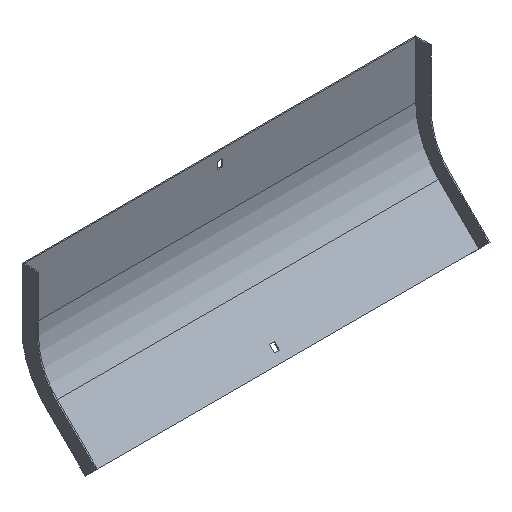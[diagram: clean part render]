
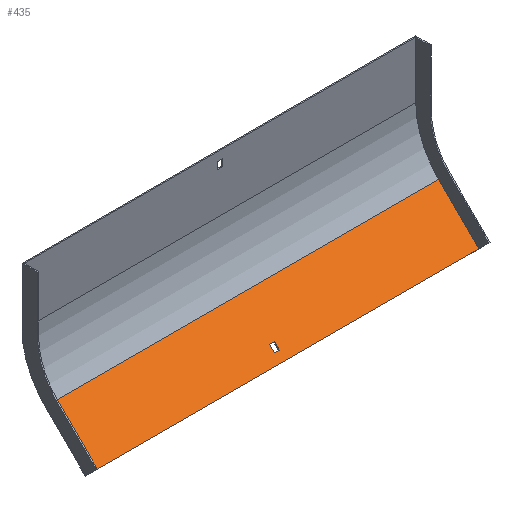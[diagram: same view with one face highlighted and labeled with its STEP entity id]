
A CAD part, isometric view. The second image highlights one B-rep face of the part: STEP entity #435.
In plain terms, the highlighted planar face has unit normal (0, -0.707, 0.707).
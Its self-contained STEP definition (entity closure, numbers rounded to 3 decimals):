
#7 = VECTOR ( 'NONE', #461, 1000. ) ;
#13 = LINE ( 'NONE', #789, #7 ) ;
#34 = ORIENTED_EDGE ( 'NONE', *, *, #223, .T. ) ;
#41 = CARTESIAN_POINT ( 'NONE',  ( 253.5, -68.337, -181.358 ) ) ;
#64 = DIRECTION ( 'NONE',  ( 0., -0.707, -0.707 ) ) ;
#79 = EDGE_CURVE ( 'NONE', #144, #622, #120, .T. ) ;
#82 = CARTESIAN_POINT ( 'NONE',  ( 252., -30.789, -143.811 ) ) ;
#84 = AXIS2_PLACEMENT_3D ( 'NONE', #194, #322, #64 ) ;
#110 = CARTESIAN_POINT ( 'NONE',  ( 3.25, -30.789, -143.811 ) ) ;
#120 = LINE ( 'NONE', #650, #312 ) ;
#124 = CARTESIAN_POINT ( 'NONE',  ( -252., -30.789, -143.811 ) ) ;
#128 = VERTEX_POINT ( 'NONE', #452 ) ;
#134 = ORIENTED_EDGE ( 'NONE', *, *, #169, .T. ) ;
#140 = VERTEX_POINT ( 'NONE', #705 ) ;
#144 = VERTEX_POINT ( 'NONE', #311 ) ;
#154 = EDGE_CURVE ( 'NONE', #552, #490, #318, .T. ) ;
#169 = EDGE_CURVE ( 'NONE', #571, #552, #296, .T. ) ;
#193 = CARTESIAN_POINT ( 'NONE',  ( -3.25, -30.789, -143.811 ) ) ;
#194 = CARTESIAN_POINT ( 'NONE',  ( 253.5, -30.789, -143.811 ) ) ;
#223 = EDGE_CURVE ( 'NONE', #128, #571, #13, .T. ) ;
#237 = ORIENTED_EDGE ( 'NONE', *, *, #862, .T. ) ;
#240 = EDGE_LOOP ( 'NONE', ( #34, #134, #295, #237 ) ) ;
#246 = DIRECTION ( 'NONE',  ( -1., 0., 0. ) ) ;
#248 = LINE ( 'NONE', #110, #428 ) ;
#251 = CARTESIAN_POINT ( 'NONE',  ( 253.5, -82.479, -195.5 ) ) ;
#275 = EDGE_CURVE ( 'NONE', #140, #144, #562, .T. ) ;
#278 = VECTOR ( 'NONE', #590, 1000. ) ;
#295 = ORIENTED_EDGE ( 'NONE', *, *, #154, .T. ) ;
#296 = LINE ( 'NONE', #193, #770 ) ;
#305 = ORIENTED_EDGE ( 'NONE', *, *, #275, .T. ) ;
#307 = DIRECTION ( 'NONE',  ( -1., 0., 0. ) ) ;
#311 = CARTESIAN_POINT ( 'NONE',  ( 252., -30.789, -143.811 ) ) ;
#312 = VECTOR ( 'NONE', #307, 1000. ) ;
#318 = LINE ( 'NONE', #41, #278 ) ;
#322 = DIRECTION ( 'NONE',  ( 0., -0.707, 0.707 ) ) ;
#353 = DIRECTION ( 'NONE',  ( 0., 0.707, 0.707 ) ) ;
#364 = ORIENTED_EDGE ( 'NONE', *, *, #79, .T. ) ;
#376 = DIRECTION ( 'NONE',  ( 0., 0.707, 0.707 ) ) ;
#428 = VECTOR ( 'NONE', #577, 1000. ) ;
#435 = ADVANCED_FACE ( 'NONE', ( #863, #536 ), #790, .T. ) ;
#448 = EDGE_CURVE ( 'NONE', #140, #779, #462, .T. ) ;
#452 = CARTESIAN_POINT ( 'NONE',  ( 3.25, -74.701, -187.722 ) ) ;
#453 = EDGE_CURVE ( 'NONE', #779, #622, #786, .T. ) ;
#461 = DIRECTION ( 'NONE',  ( -1., 0., 0. ) ) ;
#462 = LINE ( 'NONE', #251, #573 ) ;
#485 = CARTESIAN_POINT ( 'NONE',  ( -252., -30.789, -143.811 ) ) ;
#490 = VERTEX_POINT ( 'NONE', #653 ) ;
#509 = ORIENTED_EDGE ( 'NONE', *, *, #453, .F. ) ;
#521 = ORIENTED_EDGE ( 'NONE', *, *, #448, .F. ) ;
#536 = FACE_BOUND ( 'NONE', #240, .T. ) ;
#552 = VERTEX_POINT ( 'NONE', #732 ) ;
#562 = LINE ( 'NONE', #82, #648 ) ;
#571 = VERTEX_POINT ( 'NONE', #809 ) ;
#573 = VECTOR ( 'NONE', #246, 1000. ) ;
#577 = DIRECTION ( 'NONE',  ( 0., -0.707, -0.707 ) ) ;
#590 = DIRECTION ( 'NONE',  ( 1., 0., 0. ) ) ;
#622 = VERTEX_POINT ( 'NONE', #485 ) ;
#648 = VECTOR ( 'NONE', #353, 1000. ) ;
#650 = CARTESIAN_POINT ( 'NONE',  ( 253.5, -30.789, -143.811 ) ) ;
#653 = CARTESIAN_POINT ( 'NONE',  ( 3.25, -68.337, -181.358 ) ) ;
#680 = VECTOR ( 'NONE', #376, 1000. ) ;
#705 = CARTESIAN_POINT ( 'NONE',  ( 252., -82.479, -195.5 ) ) ;
#732 = CARTESIAN_POINT ( 'NONE',  ( -3.25, -68.337, -181.358 ) ) ;
#745 = EDGE_LOOP ( 'NONE', ( #509, #521, #305, #364 ) ) ;
#770 = VECTOR ( 'NONE', #861, 1000. ) ;
#779 = VERTEX_POINT ( 'NONE', #787 ) ;
#786 = LINE ( 'NONE', #124, #680 ) ;
#787 = CARTESIAN_POINT ( 'NONE',  ( -252., -82.479, -195.5 ) ) ;
#789 = CARTESIAN_POINT ( 'NONE',  ( 253.5, -74.701, -187.722 ) ) ;
#790 = PLANE ( 'NONE',  #84 ) ;
#809 = CARTESIAN_POINT ( 'NONE',  ( -3.25, -74.701, -187.722 ) ) ;
#861 = DIRECTION ( 'NONE',  ( 0., 0.707, 0.707 ) ) ;
#862 = EDGE_CURVE ( 'NONE', #490, #128, #248, .T. ) ;
#863 = FACE_OUTER_BOUND ( 'NONE', #745, .T. ) ;
